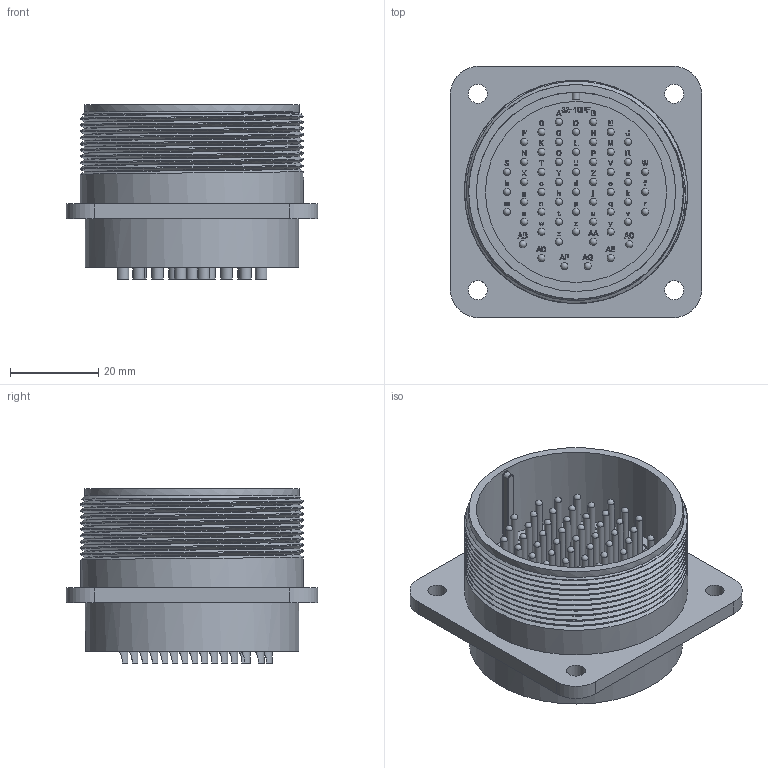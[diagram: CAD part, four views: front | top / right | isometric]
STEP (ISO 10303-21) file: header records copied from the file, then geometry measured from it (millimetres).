
FILE_DESCRIPTION (( 'STEP AP203' ), '1' );
FILE_NAME ('DMS3102A32A-10P.STEP', '2021-03-04T09:27:51', ( '' ), ( '' ), 'SwSTEP 2.0', 'SolidWorks 2018', '' );
FILE_SCHEMA (( 'CONFIG_CONTROL_DESIGN' ));
Length unit declared in the file: millimetre
Products named in the file (1): DMS3102A32A-10P
Bounding box: 56.9 x 56.9 x 39.45 mm (x, y, z)
Volume: 41264.8 mm3; surface area: 29239.1 mm2
Topology: 1 solids, 1 shells, 3136 faces, 8587 edges, 5650 vertices
Faces by surface type: plane 1717, bspline 999, cylinder 310, cone 55, sphere 54, torus 1
Full cylindrical faces by diameter (mm): 1.59 x54, 4.27 x4, 38.1 x1, 41 x1, 42.93 x1, 45.12 x1, 48.42 x1, 48.6 x1, 50.53 x10
Entity records: 127563 total; most frequent: CARTESIAN_POINT 56987, ORIENTED_EDGE 16428, DIRECTION 10687, EDGE_CURVE 8214, VERTEX_POINT 5514, LINE 5439, VECTOR 5439, EDGE_LOOP 3564
